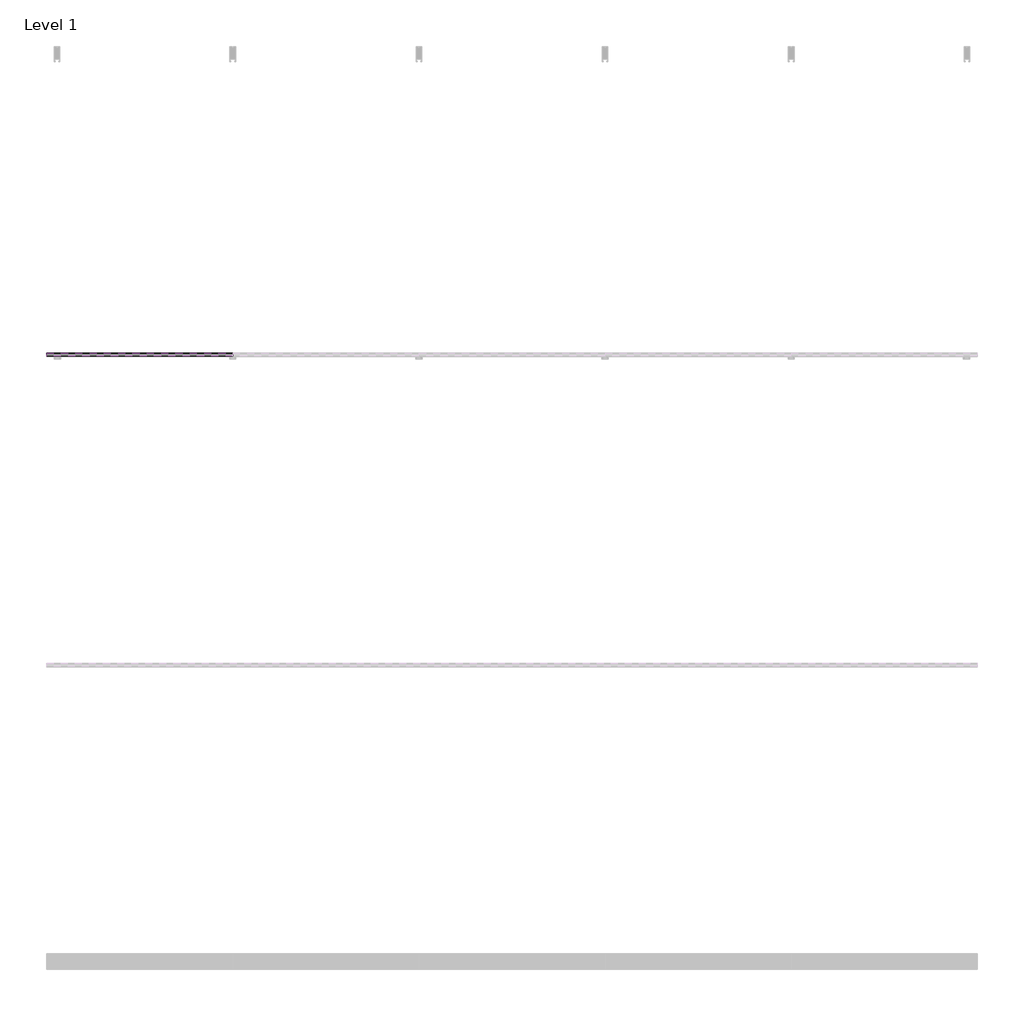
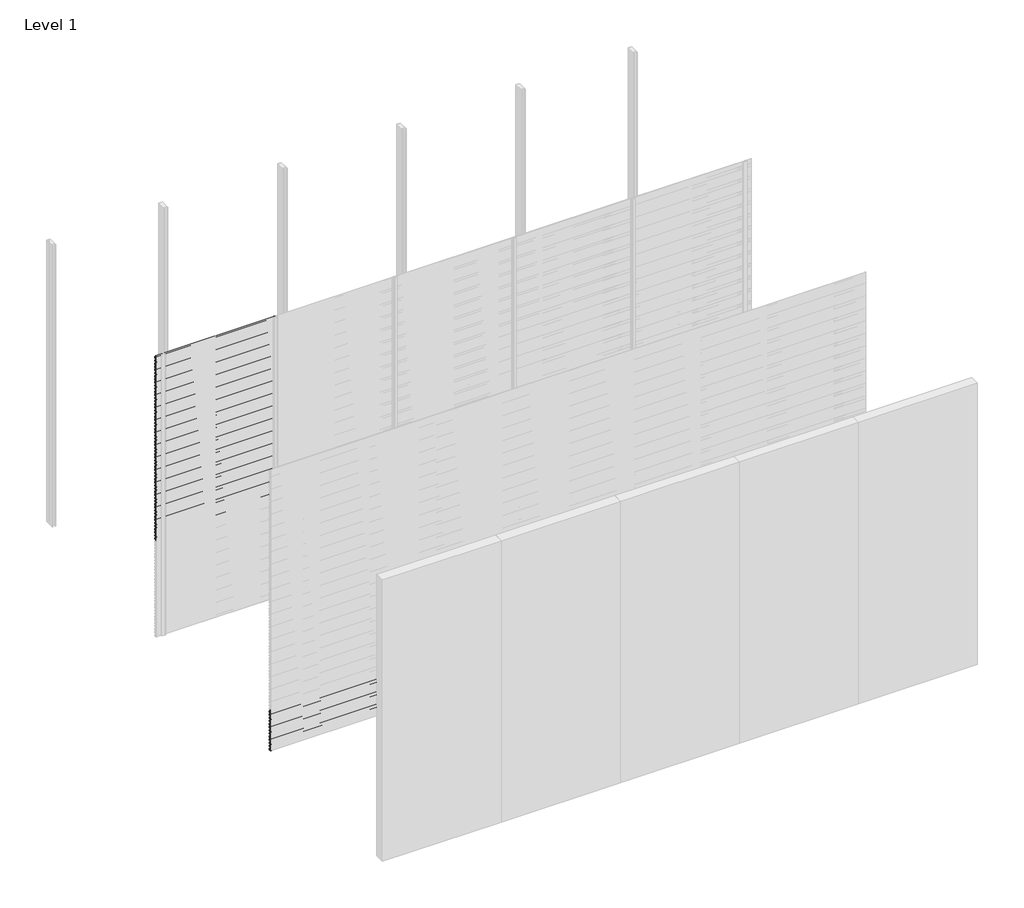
# One storey, part 42 of 77: 72 proxies.
"""IFC4 building model written with IfcOpenShell, lengths in millimetres."""

from ifc_helpers import new_model, si_unit, frame, origin, place, context, project, spatial, polyline, outline, extrude, element, save

model = new_model("IFC4")

# Units and contexts
model_context = context("Model", 3, world=origin())
ifc_project = project(units=[si_unit("LENGTHUNIT", "METRE", prefix="MILLI")], contexts=[model_context])

# Site, building, storey
site = spatial("IfcSite", under=ifc_project)
building = spatial("IfcBuilding", under=site)
storey = spatial("IfcBuildingStorey", under=building, Name="Level 1", Elevation=0.0)

# Proxies
placement = place(None, origin())
element("IfcBuildingElementProxy", 1, Name="Wall Sweeps", at=placement, inside=storey, context=model_context, shape_type="SweptSolid", body=[
    extrude(outline(polyline([(-23978.6, 2972.5359887), (-23998.0, 2983.7366691), (-23998.0, 2997.0), (-23997.0, 2997.0), (-23997.0, 2984.3191057), (-23977.6, 2973.1185105), (-23977.6, 2959.5185105), (-23978.6, 2961.0953129), (-23978.6, 2966.9032062), (-23995.9773817, 2958.8), (-23996.4, 2959.7063078), (-23978.6, 2968.0065841), (-23978.6, 2972.5359887)])), frame((0.0, 0.0, 0.0), z_axis=(1.0, 0.0, 0.0), x_axis=(0.0, 1.0, 0.0)), (0.0, 0.0, 1.0), 1200.0),
])
element("IfcBuildingElementProxy", 2, Name="Wall Sweeps", at=placement, inside=storey, context=model_context, shape_type="SweptSolid", body=[
    extrude(outline(polyline([(-23978.6, 2939.2359887), (-23998.0, 2950.4366691), (-23998.0, 2963.7), (-23997.0, 2963.7), (-23997.0, 2951.0191057), (-23977.6, 2939.8185105), (-23977.6, 2926.2185105), (-23978.6, 2927.7953129), (-23978.6, 2933.6032062), (-23995.9773817, 2925.5), (-23996.4, 2926.4063078), (-23978.6, 2934.7065841), (-23978.6, 2939.2359887)])), frame((0.0, 0.0, 0.0), z_axis=(1.0, 0.0, 0.0), x_axis=(0.0, 1.0, 0.0)), (0.0, 0.0, 1.0), 1200.0),
])
element("IfcBuildingElementProxy", 3, Name="Wall Sweeps", at=placement, inside=storey, context=model_context, shape_type="SweptSolid", body=[
    extrude(outline(polyline([(-23978.6, 2905.9359887), (-23998.0, 2917.1366691), (-23998.0, 2930.4), (-23997.0, 2930.4), (-23997.0, 2917.7191057), (-23977.6, 2906.5185105), (-23977.6, 2892.9185105), (-23978.6, 2894.4953129), (-23978.6, 2900.3032062), (-23995.9773817, 2892.2), (-23996.4, 2893.1063078), (-23978.6, 2901.4065841), (-23978.6, 2905.9359887)])), frame((0.0, 0.0, 0.0), z_axis=(1.0, 0.0, 0.0), x_axis=(0.0, 1.0, 0.0)), (0.0, 0.0, 1.0), 1200.0),
])
element("IfcBuildingElementProxy", 4, Name="Wall Sweeps", at=placement, inside=storey, context=model_context, shape_type="SweptSolid", body=[
    extrude(outline(polyline([(-23978.6, 2872.6359887), (-23998.0, 2883.8366691), (-23998.0, 2897.1), (-23997.0, 2897.1), (-23997.0, 2884.4191057), (-23977.6, 2873.2185105), (-23977.6, 2859.6185105), (-23978.6, 2861.1953129), (-23978.6, 2867.0032062), (-23995.9773817, 2858.9), (-23996.4, 2859.8063078), (-23978.6, 2868.1065841), (-23978.6, 2872.6359887)])), frame((0.0, 0.0, 0.0), z_axis=(1.0, 0.0, 0.0), x_axis=(0.0, 1.0, 0.0)), (0.0, 0.0, 1.0), 1200.0),
])
element("IfcBuildingElementProxy", 5, Name="Wall Sweeps", at=placement, inside=storey, context=model_context, shape_type="SweptSolid", body=[
    extrude(outline(polyline([(-23978.6, 2839.3359887), (-23998.0, 2850.5366691), (-23998.0, 2863.8), (-23997.0, 2863.8), (-23997.0, 2851.1191057), (-23977.6, 2839.9185105), (-23977.6, 2826.3185105), (-23978.6, 2827.8953129), (-23978.6, 2833.7032062), (-23995.9773817, 2825.6), (-23996.4, 2826.5063078), (-23978.6, 2834.8065841), (-23978.6, 2839.3359887)])), frame((0.0, 0.0, 0.0), z_axis=(1.0, 0.0, 0.0), x_axis=(0.0, 1.0, 0.0)), (0.0, 0.0, 1.0), 1200.0),
])
element("IfcBuildingElementProxy", 6, Name="Wall Sweeps", at=placement, inside=storey, context=model_context, shape_type="SweptSolid", body=[
    extrude(outline(polyline([(-23978.6, 2806.0359887), (-23998.0, 2817.2366691), (-23998.0, 2830.5), (-23997.0, 2830.5), (-23997.0, 2817.8191057), (-23977.6, 2806.6185105), (-23977.6, 2793.0185105), (-23978.6, 2794.5953129), (-23978.6, 2800.4032062), (-23995.9773817, 2792.3), (-23996.4, 2793.2063078), (-23978.6, 2801.5065841), (-23978.6, 2806.0359887)])), frame((0.0, 0.0, 0.0), z_axis=(1.0, 0.0, 0.0), x_axis=(0.0, 1.0, 0.0)), (0.0, 0.0, 1.0), 1200.0),
])
element("IfcBuildingElementProxy", 7, Name="Wall Sweeps", at=placement, inside=storey, context=model_context, shape_type="SweptSolid", body=[
    extrude(outline(polyline([(-23978.6, 2772.7359887), (-23998.0, 2783.9366691), (-23998.0, 2797.2), (-23997.0, 2797.2), (-23997.0, 2784.5191057), (-23977.6, 2773.3185105), (-23977.6, 2759.7185105), (-23978.6, 2761.2953129), (-23978.6, 2767.1032062), (-23995.9773817, 2759.0), (-23996.4, 2759.9063078), (-23978.6, 2768.2065841), (-23978.6, 2772.7359887)])), frame((0.0, 0.0, 0.0), z_axis=(1.0, 0.0, 0.0), x_axis=(0.0, 1.0, 0.0)), (0.0, 0.0, 1.0), 1200.0),
])
element("IfcBuildingElementProxy", 8, Name="Wall Sweeps", at=placement, inside=storey, context=model_context, shape_type="SweptSolid", body=[
    extrude(outline(polyline([(-23978.6, 2739.4359887), (-23998.0, 2750.6366691), (-23998.0, 2763.9), (-23997.0, 2763.9), (-23997.0, 2751.2191057), (-23977.6, 2740.0185105), (-23977.6, 2726.4185105), (-23978.6, 2727.9953129), (-23978.6, 2733.8032062), (-23995.9773817, 2725.7), (-23996.4, 2726.6063078), (-23978.6, 2734.9065841), (-23978.6, 2739.4359887)])), frame((0.0, 0.0, 0.0), z_axis=(1.0, 0.0, 0.0), x_axis=(0.0, 1.0, 0.0)), (0.0, 0.0, 1.0), 1200.0),
])
element("IfcBuildingElementProxy", 9, Name="Wall Sweeps", at=placement, inside=storey, context=model_context, shape_type="SweptSolid", body=[
    extrude(outline(polyline([(-23978.6, 2706.1359887), (-23998.0, 2717.3366691), (-23998.0, 2730.6), (-23997.0, 2730.6), (-23997.0, 2717.9191057), (-23977.6, 2706.7185105), (-23977.6, 2693.1185105), (-23978.6, 2694.6953129), (-23978.6, 2700.5032062), (-23995.9773817, 2692.4), (-23996.4, 2693.3063078), (-23978.6, 2701.6065841), (-23978.6, 2706.1359887)])), frame((0.0, 0.0, 0.0), z_axis=(1.0, 0.0, 0.0), x_axis=(0.0, 1.0, 0.0)), (0.0, 0.0, 1.0), 1200.0),
])
element("IfcBuildingElementProxy", 10, Name="Wall Sweeps", at=placement, inside=storey, context=model_context, shape_type="SweptSolid", body=[
    extrude(outline(polyline([(-23978.6, 2672.8359887), (-23998.0, 2684.0366691), (-23998.0, 2697.3), (-23997.0, 2697.3), (-23997.0, 2684.6191057), (-23977.6, 2673.4185105), (-23977.6, 2659.8185105), (-23978.6, 2661.3953129), (-23978.6, 2667.2032062), (-23995.9773817, 2659.1), (-23996.4, 2660.0063078), (-23978.6, 2668.3065841), (-23978.6, 2672.8359887)])), frame((0.0, 0.0, 0.0), z_axis=(1.0, 0.0, 0.0), x_axis=(0.0, 1.0, 0.0)), (0.0, 0.0, 1.0), 1200.0),
])
element("IfcBuildingElementProxy", 11, Name="Wall Sweeps", at=placement, inside=storey, context=model_context, shape_type="SweptSolid", body=[
    extrude(outline(polyline([(-23978.6, 2639.5359887), (-23998.0, 2650.7366691), (-23998.0, 2664.0), (-23997.0, 2664.0), (-23997.0, 2651.3191057), (-23977.6, 2640.1185105), (-23977.6, 2626.5185105), (-23978.6, 2628.0953129), (-23978.6, 2633.9032062), (-23995.9773817, 2625.8), (-23996.4, 2626.7063078), (-23978.6, 2635.0065841), (-23978.6, 2639.5359887)])), frame((0.0, 0.0, 0.0), z_axis=(1.0, 0.0, 0.0), x_axis=(0.0, 1.0, 0.0)), (0.0, 0.0, 1.0), 1200.0),
])
element("IfcBuildingElementProxy", 12, Name="Wall Sweeps", at=placement, inside=storey, context=model_context, shape_type="SweptSolid", body=[
    extrude(outline(polyline([(-23978.6, 2606.2359887), (-23998.0, 2617.4366691), (-23998.0, 2630.7), (-23997.0, 2630.7), (-23997.0, 2618.0191057), (-23977.6, 2606.8185105), (-23977.6, 2593.2185105), (-23978.6, 2594.7953129), (-23978.6, 2600.6032062), (-23995.9773817, 2592.5), (-23996.4, 2593.4063078), (-23978.6, 2601.7065841), (-23978.6, 2606.2359887)])), frame((0.0, 0.0, 0.0), z_axis=(1.0, 0.0, 0.0), x_axis=(0.0, 1.0, 0.0)), (0.0, 0.0, 1.0), 1200.0),
])
element("IfcBuildingElementProxy", 13, Name="Wall Sweeps", at=placement, inside=storey, context=model_context, shape_type="SweptSolid", body=[
    extrude(outline(polyline([(-23978.6, 2572.9359887), (-23998.0, 2584.1366691), (-23998.0, 2597.4), (-23997.0, 2597.4), (-23997.0, 2584.7191057), (-23977.6, 2573.5185105), (-23977.6, 2559.9185105), (-23978.6, 2561.4953129), (-23978.6, 2567.3032062), (-23995.9773817, 2559.2), (-23996.4, 2560.1063078), (-23978.6, 2568.4065841), (-23978.6, 2572.9359887)])), frame((0.0, 0.0, 0.0), z_axis=(1.0, 0.0, 0.0), x_axis=(0.0, 1.0, 0.0)), (0.0, 0.0, 1.0), 1200.0),
])
element("IfcBuildingElementProxy", 14, Name="Wall Sweeps", at=placement, inside=storey, context=model_context, shape_type="SweptSolid", body=[
    extrude(outline(polyline([(-23978.6, 2539.6359887), (-23998.0, 2550.8366691), (-23998.0, 2564.1), (-23997.0, 2564.1), (-23997.0, 2551.4191057), (-23977.6, 2540.2185105), (-23977.6, 2526.6185105), (-23978.6, 2528.1953129), (-23978.6, 2534.0032062), (-23995.9773817, 2525.9), (-23996.4, 2526.8063078), (-23978.6, 2535.1065841), (-23978.6, 2539.6359887)])), frame((0.0, 0.0, 0.0), z_axis=(1.0, 0.0, 0.0), x_axis=(0.0, 1.0, 0.0)), (0.0, 0.0, 1.0), 1200.0),
])
element("IfcBuildingElementProxy", 15, Name="Wall Sweeps", at=placement, inside=storey, context=model_context, shape_type="SweptSolid", body=[
    extrude(outline(polyline([(-23978.6, 2506.3359887), (-23998.0, 2517.5366691), (-23998.0, 2530.8), (-23997.0, 2530.8), (-23997.0, 2518.1191057), (-23977.6, 2506.9185105), (-23977.6, 2493.3185105), (-23978.6, 2494.8953129), (-23978.6, 2500.7032062), (-23995.9773817, 2492.6), (-23996.4, 2493.5063078), (-23978.6, 2501.8065841), (-23978.6, 2506.3359887)])), frame((0.0, 0.0, 0.0), z_axis=(1.0, 0.0, 0.0), x_axis=(0.0, 1.0, 0.0)), (0.0, 0.0, 1.0), 1200.0),
])
element("IfcBuildingElementProxy", 16, Name="Wall Sweeps", at=placement, inside=storey, context=model_context, shape_type="SweptSolid", body=[
    extrude(outline(polyline([(-23978.6, 2473.0359887), (-23998.0, 2484.2366691), (-23998.0, 2497.5), (-23997.0, 2497.5), (-23997.0, 2484.8191057), (-23977.6, 2473.6185105), (-23977.6, 2460.0185105), (-23978.6, 2461.5953129), (-23978.6, 2467.4032062), (-23995.9773817, 2459.3), (-23996.4, 2460.2063078), (-23978.6, 2468.5065841), (-23978.6, 2473.0359887)])), frame((0.0, 0.0, 0.0), z_axis=(1.0, 0.0, 0.0), x_axis=(0.0, 1.0, 0.0)), (0.0, 0.0, 1.0), 1200.0),
])
element("IfcBuildingElementProxy", 17, Name="Wall Sweeps", at=placement, inside=storey, context=model_context, shape_type="SweptSolid", body=[
    extrude(outline(polyline([(-23978.6, 2439.7359887), (-23998.0, 2450.9366691), (-23998.0, 2464.2), (-23997.0, 2464.2), (-23997.0, 2451.5191057), (-23977.6, 2440.3185105), (-23977.6, 2426.7185105), (-23978.6, 2428.2953129), (-23978.6, 2434.1032062), (-23995.9773817, 2426.0), (-23996.4, 2426.9063078), (-23978.6, 2435.2065841), (-23978.6, 2439.7359887)])), frame((0.0, 0.0, 0.0), z_axis=(1.0, 0.0, 0.0), x_axis=(0.0, 1.0, 0.0)), (0.0, 0.0, 1.0), 1200.0),
])
element("IfcBuildingElementProxy", 18, Name="Wall Sweeps", at=placement, inside=storey, context=model_context, shape_type="SweptSolid", body=[
    extrude(outline(polyline([(-23978.6, 2406.4359887), (-23998.0, 2417.6366691), (-23998.0, 2430.9), (-23997.0, 2430.9), (-23997.0, 2418.2191057), (-23977.6, 2407.0185105), (-23977.6, 2393.4185105), (-23978.6, 2394.9953129), (-23978.6, 2400.8032062), (-23995.9773817, 2392.7), (-23996.4, 2393.6063078), (-23978.6, 2401.9065841), (-23978.6, 2406.4359887)])), frame((0.0, 0.0, 0.0), z_axis=(1.0, 0.0, 0.0), x_axis=(0.0, 1.0, 0.0)), (0.0, 0.0, 1.0), 1200.0),
])
element("IfcBuildingElementProxy", 19, Name="Wall Sweeps", at=placement, inside=storey, context=model_context, shape_type="SweptSolid", body=[
    extrude(outline(polyline([(-23978.6, 2373.1359887), (-23998.0, 2384.3366691), (-23998.0, 2397.6), (-23997.0, 2397.6), (-23997.0, 2384.9191057), (-23977.6, 2373.7185105), (-23977.6, 2360.1185105), (-23978.6, 2361.6953129), (-23978.6, 2367.5032062), (-23995.9773817, 2359.4), (-23996.4, 2360.3063078), (-23978.6, 2368.6065841), (-23978.6, 2373.1359887)])), frame((0.0, 0.0, 0.0), z_axis=(1.0, 0.0, 0.0), x_axis=(0.0, 1.0, 0.0)), (0.0, 0.0, 1.0), 1200.0),
])
element("IfcBuildingElementProxy", 20, Name="Wall Sweeps", at=placement, inside=storey, context=model_context, shape_type="SweptSolid", body=[
    extrude(outline(polyline([(-23978.6, 2339.8359887), (-23998.0, 2351.0366691), (-23998.0, 2364.3), (-23997.0, 2364.3), (-23997.0, 2351.6191057), (-23977.6, 2340.4185105), (-23977.6, 2326.8185105), (-23978.6, 2328.3953129), (-23978.6, 2334.2032062), (-23995.9773817, 2326.1), (-23996.4, 2327.0063078), (-23978.6, 2335.3065841), (-23978.6, 2339.8359887)])), frame((0.0, 0.0, 0.0), z_axis=(1.0, 0.0, 0.0), x_axis=(0.0, 1.0, 0.0)), (0.0, 0.0, 1.0), 1200.0),
])
element("IfcBuildingElementProxy", 21, Name="Wall Sweeps", at=placement, inside=storey, context=model_context, shape_type="SweptSolid", body=[
    extrude(outline(polyline([(-23978.6, 2306.5359887), (-23998.0, 2317.7366691), (-23998.0, 2331.0), (-23997.0, 2331.0), (-23997.0, 2318.3191057), (-23977.6, 2307.1185105), (-23977.6, 2293.5185105), (-23978.6, 2295.0953129), (-23978.6, 2300.9032062), (-23995.9773817, 2292.8), (-23996.4, 2293.7063078), (-23978.6, 2302.0065841), (-23978.6, 2306.5359887)])), frame((0.0, 0.0, 0.0), z_axis=(1.0, 0.0, 0.0), x_axis=(0.0, 1.0, 0.0)), (0.0, 0.0, 1.0), 1200.0),
])
element("IfcBuildingElementProxy", 22, Name="Wall Sweeps", at=placement, inside=storey, context=model_context, shape_type="SweptSolid", body=[
    extrude(outline(polyline([(-23978.6, 2273.2359887), (-23998.0, 2284.4366691), (-23998.0, 2297.7), (-23997.0, 2297.7), (-23997.0, 2285.0191057), (-23977.6, 2273.8185105), (-23977.6, 2260.2185105), (-23978.6, 2261.7953129), (-23978.6, 2267.6032062), (-23995.9773817, 2259.5), (-23996.4, 2260.4063078), (-23978.6, 2268.7065841), (-23978.6, 2273.2359887)])), frame((0.0, 0.0, 0.0), z_axis=(1.0, 0.0, 0.0), x_axis=(0.0, 1.0, 0.0)), (0.0, 0.0, 1.0), 1200.0),
])
element("IfcBuildingElementProxy", 23, Name="Wall Sweeps", at=placement, inside=storey, context=model_context, shape_type="SweptSolid", body=[
    extrude(outline(polyline([(-23978.6, 2239.9359887), (-23998.0, 2251.1366691), (-23998.0, 2264.4), (-23997.0, 2264.4), (-23997.0, 2251.7191057), (-23977.6, 2240.5185105), (-23977.6, 2226.9185105), (-23978.6, 2228.4953129), (-23978.6, 2234.3032062), (-23995.9773817, 2226.2), (-23996.4, 2227.1063078), (-23978.6, 2235.4065841), (-23978.6, 2239.9359887)])), frame((0.0, 0.0, 0.0), z_axis=(1.0, 0.0, 0.0), x_axis=(0.0, 1.0, 0.0)), (0.0, 0.0, 1.0), 1200.0),
])
element("IfcBuildingElementProxy", 24, Name="Wall Sweeps", at=placement, inside=storey, context=model_context, shape_type="SweptSolid", body=[
    extrude(outline(polyline([(-23978.6, 2206.6359887), (-23998.0, 2217.8366691), (-23998.0, 2231.1), (-23997.0, 2231.1), (-23997.0, 2218.4191057), (-23977.6, 2207.2185105), (-23977.6, 2193.6185105), (-23978.6, 2195.1953129), (-23978.6, 2201.0032062), (-23995.9773817, 2192.9), (-23996.4, 2193.8063078), (-23978.6, 2202.1065841), (-23978.6, 2206.6359887)])), frame((0.0, 0.0, 0.0), z_axis=(1.0, 0.0, 0.0), x_axis=(0.0, 1.0, 0.0)), (0.0, 0.0, 1.0), 1200.0),
])
element("IfcBuildingElementProxy", 25, Name="Wall Sweeps", at=placement, inside=storey, context=model_context, shape_type="SweptSolid", body=[
    extrude(outline(polyline([(-23978.6, 2173.3359887), (-23998.0, 2184.5366691), (-23998.0, 2197.8), (-23997.0, 2197.8), (-23997.0, 2185.1191057), (-23977.6, 2173.9185105), (-23977.6, 2160.3185105), (-23978.6, 2161.8953129), (-23978.6, 2167.7032062), (-23995.9773817, 2159.6), (-23996.4, 2160.5063078), (-23978.6, 2168.8065841), (-23978.6, 2173.3359887)])), frame((0.0, 0.0, 0.0), z_axis=(1.0, 0.0, 0.0), x_axis=(0.0, 1.0, 0.0)), (0.0, 0.0, 1.0), 1200.0),
])
element("IfcBuildingElementProxy", 26, Name="Wall Sweeps", at=placement, inside=storey, context=model_context, shape_type="SweptSolid", body=[
    extrude(outline(polyline([(-23978.6, 2140.0359887), (-23998.0, 2151.2366691), (-23998.0, 2164.5), (-23997.0, 2164.5), (-23997.0, 2151.8191057), (-23977.6, 2140.6185105), (-23977.6, 2127.0185105), (-23978.6, 2128.5953129), (-23978.6, 2134.4032062), (-23995.9773817, 2126.3), (-23996.4, 2127.2063078), (-23978.6, 2135.5065841), (-23978.6, 2140.0359887)])), frame((0.0, 0.0, 0.0), z_axis=(1.0, 0.0, 0.0), x_axis=(0.0, 1.0, 0.0)), (0.0, 0.0, 1.0), 1200.0),
])
element("IfcBuildingElementProxy", 27, Name="Wall Sweeps", at=placement, inside=storey, context=model_context, shape_type="SweptSolid", body=[
    extrude(outline(polyline([(-23978.6, 2106.7359887), (-23998.0, 2117.9366691), (-23998.0, 2131.2), (-23997.0, 2131.2), (-23997.0, 2118.5191057), (-23977.6, 2107.3185105), (-23977.6, 2093.7185105), (-23978.6, 2095.2953129), (-23978.6, 2101.1032062), (-23995.9773817, 2093.0), (-23996.4, 2093.9063078), (-23978.6, 2102.2065841), (-23978.6, 2106.7359887)])), frame((0.0, 0.0, 0.0), z_axis=(1.0, 0.0, 0.0), x_axis=(0.0, 1.0, 0.0)), (0.0, 0.0, 1.0), 1200.0),
])
element("IfcBuildingElementProxy", 28, Name="Wall Sweeps", at=placement, inside=storey, context=model_context, shape_type="SweptSolid", body=[
    extrude(outline(polyline([(-23978.6, 2073.4359887), (-23998.0, 2084.6366691), (-23998.0, 2097.9), (-23997.0, 2097.9), (-23997.0, 2085.2191057), (-23977.6, 2074.0185105), (-23977.6, 2060.4185105), (-23978.6, 2061.9953129), (-23978.6, 2067.8032062), (-23995.9773817, 2059.7), (-23996.4, 2060.6063078), (-23978.6, 2068.9065841), (-23978.6, 2073.4359887)])), frame((0.0, 0.0, 0.0), z_axis=(1.0, 0.0, 0.0), x_axis=(0.0, 1.0, 0.0)), (0.0, 0.0, 1.0), 1200.0),
])
element("IfcBuildingElementProxy", 29, Name="Wall Sweeps", at=placement, inside=storey, context=model_context, shape_type="SweptSolid", body=[
    extrude(outline(polyline([(-23978.6, 2040.1359887), (-23998.0, 2051.3366691), (-23998.0, 2064.6), (-23997.0, 2064.6), (-23997.0, 2051.9191057), (-23977.6, 2040.7185105), (-23977.6, 2027.1185105), (-23978.6, 2028.6953129), (-23978.6, 2034.5032062), (-23995.9773817, 2026.4), (-23996.4, 2027.3063078), (-23978.6, 2035.6065841), (-23978.6, 2040.1359887)])), frame((0.0, 0.0, 0.0), z_axis=(1.0, 0.0, 0.0), x_axis=(0.0, 1.0, 0.0)), (0.0, 0.0, 1.0), 1200.0),
])
element("IfcBuildingElementProxy", 30, Name="Wall Sweeps", at=placement, inside=storey, context=model_context, shape_type="SweptSolid", body=[
    extrude(outline(polyline([(-23978.6, 2006.8359887), (-23998.0, 2018.0366691), (-23998.0, 2031.3), (-23997.0, 2031.3), (-23997.0, 2018.6191057), (-23977.6, 2007.4185105), (-23977.6, 1993.8185105), (-23978.6, 1995.3953129), (-23978.6, 2001.2032062), (-23995.9773817, 1993.1), (-23996.4, 1994.0063078), (-23978.6, 2002.3065841), (-23978.6, 2006.8359887)])), frame((0.0, 0.0, 0.0), z_axis=(1.0, 0.0, 0.0), x_axis=(0.0, 1.0, 0.0)), (0.0, 0.0, 1.0), 1200.0),
])
element("IfcBuildingElementProxy", 31, Name="Wall Sweeps", at=placement, inside=storey, context=model_context, shape_type="SweptSolid", body=[
    extrude(outline(polyline([(-23978.6, 1973.5359887), (-23998.0, 1984.7366691), (-23998.0, 1998.0), (-23997.0, 1998.0), (-23997.0, 1985.3191057), (-23977.6, 1974.1185105), (-23977.6, 1960.5185105), (-23978.6, 1962.0953129), (-23978.6, 1967.9032062), (-23995.9773817, 1959.8), (-23996.4, 1960.7063078), (-23978.6, 1969.0065841), (-23978.6, 1973.5359887)])), frame((0.0, 0.0, 0.0), z_axis=(1.0, 0.0, 0.0), x_axis=(0.0, 1.0, 0.0)), (0.0, 0.0, 1.0), 1200.0),
])
element("IfcBuildingElementProxy", 32, Name="Wall Sweeps", at=placement, inside=storey, context=model_context, shape_type="SweptSolid", body=[
    extrude(outline(polyline([(-23978.6, 1940.2359887), (-23998.0, 1951.4366691), (-23998.0, 1964.7), (-23997.0, 1964.7), (-23997.0, 1952.0191057), (-23977.6, 1940.8185105), (-23977.6, 1927.2185105), (-23978.6, 1928.7953129), (-23978.6, 1934.6032062), (-23995.9773817, 1926.5), (-23996.4, 1927.4063078), (-23978.6, 1935.7065841), (-23978.6, 1940.2359887)])), frame((0.0, 0.0, 0.0), z_axis=(1.0, 0.0, 0.0), x_axis=(0.0, 1.0, 0.0)), (0.0, 0.0, 1.0), 1200.0),
])
element("IfcBuildingElementProxy", 33, Name="Wall Sweeps", at=placement, inside=storey, context=model_context, shape_type="SweptSolid", body=[
    extrude(outline(polyline([(-23978.6, 1906.9359887), (-23998.0, 1918.1366691), (-23998.0, 1931.4), (-23997.0, 1931.4), (-23997.0, 1918.7191057), (-23977.6, 1907.5185105), (-23977.6, 1893.9185105), (-23978.6, 1895.4953129), (-23978.6, 1901.3032062), (-23995.9773817, 1893.2), (-23996.4, 1894.1063078), (-23978.6, 1902.4065841), (-23978.6, 1906.9359887)])), frame((0.0, 0.0, 0.0), z_axis=(1.0, 0.0, 0.0), x_axis=(0.0, 1.0, 0.0)), (0.0, 0.0, 1.0), 1200.0),
])
element("IfcBuildingElementProxy", 34, Name="Wall Sweeps", at=placement, inside=storey, context=model_context, shape_type="SweptSolid", body=[
    extrude(outline(polyline([(-23978.6, 1873.6359887), (-23998.0, 1884.8366691), (-23998.0, 1898.1), (-23997.0, 1898.1), (-23997.0, 1885.4191057), (-23977.6, 1874.2185105), (-23977.6, 1860.6185105), (-23978.6, 1862.1953129), (-23978.6, 1868.0032062), (-23995.9773817, 1859.9), (-23996.4, 1860.8063078), (-23978.6, 1869.1065841), (-23978.6, 1873.6359887)])), frame((0.0, 0.0, 0.0), z_axis=(1.0, 0.0, 0.0), x_axis=(0.0, 1.0, 0.0)), (0.0, 0.0, 1.0), 1200.0),
])
element("IfcBuildingElementProxy", 35, Name="Wall Sweeps", at=placement, inside=storey, context=model_context, shape_type="SweptSolid", body=[
    extrude(outline(polyline([(-23978.6, 1840.3359887), (-23998.0, 1851.5366691), (-23998.0, 1864.8), (-23997.0, 1864.8), (-23997.0, 1852.1191057), (-23977.6, 1840.9185105), (-23977.6, 1827.3185105), (-23978.6, 1828.8953129), (-23978.6, 1834.7032062), (-23995.9773817, 1826.6), (-23996.4, 1827.5063078), (-23978.6, 1835.8065841), (-23978.6, 1840.3359887)])), frame((0.0, 0.0, 0.0), z_axis=(1.0, 0.0, 0.0), x_axis=(0.0, 1.0, 0.0)), (0.0, 0.0, 1.0), 1200.0),
])
element("IfcBuildingElementProxy", 36, Name="Wall Sweeps", at=placement, inside=storey, context=model_context, shape_type="SweptSolid", body=[
    extrude(outline(polyline([(-23978.6, 1807.0359887), (-23998.0, 1818.2366691), (-23998.0, 1831.5), (-23997.0, 1831.5), (-23997.0, 1818.8191057), (-23977.6, 1807.6185105), (-23977.6, 1794.0185105), (-23978.6, 1795.5953129), (-23978.6, 1801.4032062), (-23995.9773817, 1793.3), (-23996.4, 1794.2063078), (-23978.6, 1802.5065841), (-23978.6, 1807.0359887)])), frame((0.0, 0.0, 0.0), z_axis=(1.0, 0.0, 0.0), x_axis=(0.0, 1.0, 0.0)), (0.0, 0.0, 1.0), 1200.0),
])
element("IfcBuildingElementProxy", 37, Name="Wall Sweeps", at=placement, inside=storey, context=model_context, shape_type="SweptSolid", body=[
    extrude(outline(polyline([(-23978.6, 1773.7359887), (-23998.0, 1784.9366691), (-23998.0, 1798.2), (-23997.0, 1798.2), (-23997.0, 1785.5191057), (-23977.6, 1774.3185105), (-23977.6, 1760.7185105), (-23978.6, 1762.2953129), (-23978.6, 1768.1032062), (-23995.9773817, 1760.0), (-23996.4, 1760.9063078), (-23978.6, 1769.2065841), (-23978.6, 1773.7359887)])), frame((0.0, 0.0, 0.0), z_axis=(1.0, 0.0, 0.0), x_axis=(0.0, 1.0, 0.0)), (0.0, 0.0, 1.0), 1200.0),
])
element("IfcBuildingElementProxy", 38, Name="Wall Sweeps", at=placement, inside=storey, context=model_context, shape_type="SweptSolid", body=[
    extrude(outline(polyline([(-23978.6, 1740.4359887), (-23998.0, 1751.6366691), (-23998.0, 1764.9), (-23997.0, 1764.9), (-23997.0, 1752.2191057), (-23977.6, 1741.0185105), (-23977.6, 1727.4185105), (-23978.6, 1728.9953129), (-23978.6, 1734.8032062), (-23995.9773817, 1726.7), (-23996.4, 1727.6063078), (-23978.6, 1735.9065841), (-23978.6, 1740.4359887)])), frame((0.0, 0.0, 0.0), z_axis=(1.0, 0.0, 0.0), x_axis=(0.0, 1.0, 0.0)), (0.0, 0.0, 1.0), 1200.0),
])
element("IfcBuildingElementProxy", 39, Name="Wall Sweeps", at=placement, inside=storey, context=model_context, shape_type="SweptSolid", body=[
    extrude(outline(polyline([(-23978.6, 1707.1359887), (-23998.0, 1718.3366691), (-23998.0, 1731.6), (-23997.0, 1731.6), (-23997.0, 1718.9191057), (-23977.6, 1707.7185105), (-23977.6, 1694.1185105), (-23978.6, 1695.6953129), (-23978.6, 1701.5032062), (-23995.9773817, 1693.4), (-23996.4, 1694.3063078), (-23978.6, 1702.6065841), (-23978.6, 1707.1359887)])), frame((0.0, 0.0, 0.0), z_axis=(1.0, 0.0, 0.0), x_axis=(0.0, 1.0, 0.0)), (0.0, 0.0, 1.0), 1200.0),
])
element("IfcBuildingElementProxy", 40, Name="Wall Sweeps", at=placement, inside=storey, context=model_context, shape_type="SweptSolid", body=[
    extrude(outline(polyline([(-23978.6, 1673.8359887), (-23998.0, 1685.0366691), (-23998.0, 1698.3), (-23997.0, 1698.3), (-23997.0, 1685.6191057), (-23977.6, 1674.4185105), (-23977.6, 1660.8185105), (-23978.6, 1662.3953129), (-23978.6, 1668.2032062), (-23995.9773817, 1660.1), (-23996.4, 1661.0063078), (-23978.6, 1669.3065841), (-23978.6, 1673.8359887)])), frame((0.0, 0.0, 0.0), z_axis=(1.0, 0.0, 0.0), x_axis=(0.0, 1.0, 0.0)), (0.0, 0.0, 1.0), 1200.0),
])
element("IfcBuildingElementProxy", 41, Name="Wall Sweeps", at=placement, inside=storey, context=model_context, shape_type="SweptSolid", body=[
    extrude(outline(polyline([(-23978.6, 1640.5359887), (-23998.0, 1651.7366691), (-23998.0, 1665.0), (-23997.0, 1665.0), (-23997.0, 1652.3191057), (-23977.6, 1641.1185105), (-23977.6, 1627.5185105), (-23978.6, 1629.0953129), (-23978.6, 1634.9032062), (-23995.9773817, 1626.8), (-23996.4, 1627.7063078), (-23978.6, 1636.0065841), (-23978.6, 1640.5359887)])), frame((0.0, 0.0, 0.0), z_axis=(1.0, 0.0, 0.0), x_axis=(0.0, 1.0, 0.0)), (0.0, 0.0, 1.0), 1200.0),
])
element("IfcBuildingElementProxy", 42, Name="Wall Sweeps", at=placement, inside=storey, context=model_context, shape_type="SweptSolid", body=[
    extrude(outline(polyline([(-23978.6, 1607.2359887), (-23998.0, 1618.4366691), (-23998.0, 1631.7), (-23997.0, 1631.7), (-23997.0, 1619.0191057), (-23977.6, 1607.8185105), (-23977.6, 1594.2185105), (-23978.6, 1595.7953129), (-23978.6, 1601.6032062), (-23995.9773817, 1593.5), (-23996.4, 1594.4063078), (-23978.6, 1602.7065841), (-23978.6, 1607.2359887)])), frame((0.0, 0.0, 0.0), z_axis=(1.0, 0.0, 0.0), x_axis=(0.0, 1.0, 0.0)), (0.0, 0.0, 1.0), 1200.0),
])
element("IfcBuildingElementProxy", 43, Name="Wall Sweeps", at=placement, inside=storey, context=model_context, shape_type="SweptSolid", body=[
    extrude(outline(polyline([(-23978.6, 1573.9359887), (-23998.0, 1585.1366691), (-23998.0, 1598.4), (-23997.0, 1598.4), (-23997.0, 1585.7191057), (-23977.6, 1574.5185105), (-23977.6, 1560.9185105), (-23978.6, 1562.4953129), (-23978.6, 1568.3032062), (-23995.9773817, 1560.2), (-23996.4, 1561.1063078), (-23978.6, 1569.4065841), (-23978.6, 1573.9359887)])), frame((0.0, 0.0, 0.0), z_axis=(1.0, 0.0, 0.0), x_axis=(0.0, 1.0, 0.0)), (0.0, 0.0, 1.0), 1200.0),
])
element("IfcBuildingElementProxy", 44, Name="Wall Sweeps", at=placement, inside=storey, context=model_context, shape_type="SweptSolid", body=[
    extrude(outline(polyline([(-23978.6, 1540.6359887), (-23998.0, 1551.8366691), (-23998.0, 1565.1), (-23997.0, 1565.1), (-23997.0, 1552.4191057), (-23977.6, 1541.2185105), (-23977.6, 1527.6185105), (-23978.6, 1529.1953129), (-23978.6, 1535.0032062), (-23995.9773817, 1526.9), (-23996.4, 1527.8063078), (-23978.6, 1536.1065841), (-23978.6, 1540.6359887)])), frame((0.0, 0.0, 0.0), z_axis=(1.0, 0.0, 0.0), x_axis=(0.0, 1.0, 0.0)), (0.0, 0.0, 1.0), 1200.0),
])
element("IfcBuildingElementProxy", 45, Name="Wall Sweeps", at=placement, inside=storey, context=model_context, shape_type="SweptSolid", body=[
    extrude(outline(polyline([(-23978.6, 1507.3359887), (-23998.0, 1518.5366691), (-23998.0, 1531.8), (-23997.0, 1531.8), (-23997.0, 1519.1191057), (-23977.6, 1507.9185105), (-23977.6, 1494.3185105), (-23978.6, 1495.8953129), (-23978.6, 1501.7032062), (-23995.9773817, 1493.6), (-23996.4, 1494.5063078), (-23978.6, 1502.8065841), (-23978.6, 1507.3359887)])), frame((0.0, 0.0, 0.0), z_axis=(1.0, 0.0, 0.0), x_axis=(0.0, 1.0, 0.0)), (0.0, 0.0, 1.0), 1200.0),
])
element("IfcBuildingElementProxy", 46, Name="Wall Sweeps", at=placement, inside=storey, context=model_context, shape_type="SweptSolid", body=[
    extrude(outline(polyline([(-23978.6, 1474.0359887), (-23998.0, 1485.2366691), (-23998.0, 1498.5), (-23997.0, 1498.5), (-23997.0, 1485.8191057), (-23977.6, 1474.6185105), (-23977.6, 1461.0185105), (-23978.6, 1462.5953129), (-23978.6, 1468.4032062), (-23995.9773817, 1460.3), (-23996.4, 1461.2063078), (-23978.6, 1469.5065841), (-23978.6, 1474.0359887)])), frame((0.0, 0.0, 0.0), z_axis=(1.0, 0.0, 0.0), x_axis=(0.0, 1.0, 0.0)), (0.0, 0.0, 1.0), 1200.0),
])
element("IfcBuildingElementProxy", 47, Name="Wall Sweeps", at=placement, inside=storey, context=model_context, shape_type="SweptSolid", body=[
    extrude(outline(polyline([(-23978.6, 1440.7359887), (-23998.0, 1451.9366691), (-23998.0, 1465.2), (-23997.0, 1465.2), (-23997.0, 1452.5191057), (-23977.6, 1441.3185105), (-23977.6, 1427.7185105), (-23978.6, 1429.2953129), (-23978.6, 1435.1032062), (-23995.9773817, 1427.0), (-23996.4, 1427.9063078), (-23978.6, 1436.2065841), (-23978.6, 1440.7359887)])), frame((0.0, 0.0, 0.0), z_axis=(1.0, 0.0, 0.0), x_axis=(0.0, 1.0, 0.0)), (0.0, 0.0, 1.0), 1200.0),
])
element("IfcBuildingElementProxy", 48, Name="Wall Sweeps", at=placement, inside=storey, context=model_context, shape_type="SweptSolid", body=[
    extrude(outline(polyline([(-23978.6, 1407.4359887), (-23998.0, 1418.6366691), (-23998.0, 1431.9), (-23997.0, 1431.9), (-23997.0, 1419.2191057), (-23977.6, 1408.0185105), (-23977.6, 1394.4185105), (-23978.6, 1395.9953129), (-23978.6, 1401.8032062), (-23995.9773817, 1393.7), (-23996.4, 1394.6063078), (-23978.6, 1402.9065841), (-23978.6, 1407.4359887)])), frame((0.0, 0.0, 0.0), z_axis=(1.0, 0.0, 0.0), x_axis=(0.0, 1.0, 0.0)), (0.0, 0.0, 1.0), 1200.0),
])
element("IfcBuildingElementProxy", 49, Name="Wall Sweeps", at=placement, inside=storey, context=model_context, shape_type="SweptSolid", body=[
    extrude(outline(polyline([(-23978.6, 1374.1359887), (-23998.0, 1385.3366691), (-23998.0, 1398.6), (-23997.0, 1398.6), (-23997.0, 1385.9191057), (-23977.6, 1374.7185105), (-23977.6, 1361.1185105), (-23978.6, 1362.6953129), (-23978.6, 1368.5032062), (-23995.9773817, 1360.4), (-23996.4, 1361.3063078), (-23978.6, 1369.6065841), (-23978.6, 1374.1359887)])), frame((0.0, 0.0, 0.0), z_axis=(1.0, 0.0, 0.0), x_axis=(0.0, 1.0, 0.0)), (0.0, 0.0, 1.0), 1200.0),
])
element("IfcBuildingElementProxy", 50, Name="Wall Sweeps", at=placement, inside=storey, context=model_context, shape_type="SweptSolid", body=[
    extrude(outline(polyline([(-23978.6, 1340.8359887), (-23998.0, 1352.0366691), (-23998.0, 1365.3), (-23997.0, 1365.3), (-23997.0, 1352.6191057), (-23977.6, 1341.4185105), (-23977.6, 1327.8185105), (-23978.6, 1329.3953129), (-23978.6, 1335.2032062), (-23995.9773817, 1327.1), (-23996.4, 1328.0063078), (-23978.6, 1336.3065841), (-23978.6, 1340.8359887)])), frame((0.0, 0.0, 0.0), z_axis=(1.0, 0.0, 0.0), x_axis=(0.0, 1.0, 0.0)), (0.0, 0.0, 1.0), 1200.0),
])
element("IfcBuildingElementProxy", 51, Name="Wall Sweeps", at=placement, inside=storey, context=model_context, shape_type="SweptSolid", body=[
    extrude(outline(polyline([(-23978.6, 1307.5359887), (-23998.0, 1318.7366691), (-23998.0, 1332.0), (-23997.0, 1332.0), (-23997.0, 1319.3191057), (-23977.6, 1308.1185105), (-23977.6, 1294.5185105), (-23978.6, 1296.0953129), (-23978.6, 1301.9032062), (-23995.9773817, 1293.8), (-23996.4, 1294.7063078), (-23978.6, 1303.0065841), (-23978.6, 1307.5359887)])), frame((0.0, 0.0, 0.0), z_axis=(1.0, 0.0, 0.0), x_axis=(0.0, 1.0, 0.0)), (0.0, 0.0, 1.0), 1200.0),
])
element("IfcBuildingElementProxy", 52, Name="Wall Sweeps", at=placement, inside=storey, context=model_context, shape_type="SweptSolid", body=[
    extrude(outline(polyline([(-23978.6, 1274.2359887), (-23998.0, 1285.4366691), (-23998.0, 1298.7), (-23997.0, 1298.7), (-23997.0, 1286.0191057), (-23977.6, 1274.8185105), (-23977.6, 1261.2185105), (-23978.6, 1262.7953129), (-23978.6, 1268.6032062), (-23995.9773817, 1260.5), (-23996.4, 1261.4063078), (-23978.6, 1269.7065841), (-23978.6, 1274.2359887)])), frame((0.0, 0.0, 0.0), z_axis=(1.0, 0.0, 0.0), x_axis=(0.0, 1.0, 0.0)), (0.0, 0.0, 1.0), 1200.0),
])
element("IfcBuildingElementProxy", 53, Name="Wall Sweeps", at=placement, inside=storey, context=model_context, shape_type="SweptSolid", body=[
    extrude(outline(polyline([(-23978.6, 1240.9359887), (-23998.0, 1252.1366691), (-23998.0, 1265.4), (-23997.0, 1265.4), (-23997.0, 1252.7191057), (-23977.6, 1241.5185105), (-23977.6, 1227.9185105), (-23978.6, 1229.4953129), (-23978.6, 1235.3032062), (-23995.9773817, 1227.2), (-23996.4, 1228.1063078), (-23978.6, 1236.4065841), (-23978.6, 1240.9359887)])), frame((0.0, 0.0, 0.0), z_axis=(1.0, 0.0, 0.0), x_axis=(0.0, 1.0, 0.0)), (0.0, 0.0, 1.0), 1200.0),
])
element("IfcBuildingElementProxy", 54, Name="Wall Sweeps", at=placement, inside=storey, context=model_context, shape_type="SweptSolid", body=[
    extrude(outline(polyline([(-23978.6, 1207.6359887), (-23998.0, 1218.8366691), (-23998.0, 1232.1), (-23997.0, 1232.1), (-23997.0, 1219.4191057), (-23977.6, 1208.2185105), (-23977.6, 1194.6185105), (-23978.6, 1196.1953129), (-23978.6, 1202.0032062), (-23995.9773817, 1193.9), (-23996.4, 1194.8063078), (-23978.6, 1203.1065841), (-23978.6, 1207.6359887)])), frame((0.0, 0.0, 0.0), z_axis=(1.0, 0.0, 0.0), x_axis=(0.0, 1.0, 0.0)), (0.0, 0.0, 1.0), 1200.0),
])
element("IfcBuildingElementProxy", 55, Name="Wall Sweeps", at=placement, inside=storey, context=model_context, shape_type="SweptSolid", body=[
    extrude(outline(polyline([(-23978.6, 1174.3359887), (-23998.0, 1185.5366691), (-23998.0, 1198.8), (-23997.0, 1198.8), (-23997.0, 1186.1191057), (-23977.6, 1174.9185105), (-23977.6, 1161.3185105), (-23978.6, 1162.8953129), (-23978.6, 1168.7032062), (-23995.9773817, 1160.6), (-23996.4, 1161.5063078), (-23978.6, 1169.8065841), (-23978.6, 1174.3359887)])), frame((0.0, 0.0, 0.0), z_axis=(1.0, 0.0, 0.0), x_axis=(0.0, 1.0, 0.0)), (0.0, 0.0, 1.0), 1200.0),
])
element("IfcBuildingElementProxy", 56, Name="Wall Sweeps", at=placement, inside=storey, context=model_context, shape_type="SweptSolid", body=[
    extrude(outline(polyline([(-23978.6, 1141.0359887), (-23998.0, 1152.2366691), (-23998.0, 1165.5), (-23997.0, 1165.5), (-23997.0, 1152.8191057), (-23977.6, 1141.6185105), (-23977.6, 1128.0185105), (-23978.6, 1129.5953129), (-23978.6, 1135.4032062), (-23995.9773817, 1127.3), (-23996.4, 1128.2063078), (-23978.6, 1136.5065841), (-23978.6, 1141.0359887)])), frame((0.0, 0.0, 0.0), z_axis=(1.0, 0.0, 0.0), x_axis=(0.0, 1.0, 0.0)), (0.0, 0.0, 1.0), 1200.0),
])
element("IfcBuildingElementProxy", 57, Name="Wall Sweeps", at=placement, inside=storey, context=model_context, shape_type="SweptSolid", body=[
    extrude(outline(polyline([(-23978.6, 1107.7359887), (-23998.0, 1118.9366691), (-23998.0, 1132.2), (-23997.0, 1132.2), (-23997.0, 1119.5191057), (-23977.6, 1108.3185105), (-23977.6, 1094.7185105), (-23978.6, 1096.2953129), (-23978.6, 1102.1032062), (-23995.9773817, 1094.0), (-23996.4, 1094.9063078), (-23978.6, 1103.2065841), (-23978.6, 1107.7359887)])), frame((0.0, 0.0, 0.0), z_axis=(1.0, 0.0, 0.0), x_axis=(0.0, 1.0, 0.0)), (0.0, 0.0, 1.0), 1200.0),
])
element("IfcBuildingElementProxy", 58, Name="Wall Sweeps", at=placement, inside=storey, context=model_context, shape_type="SweptSolid", body=[
    extrude(outline(polyline([(-23978.6, 1074.4359887), (-23998.0, 1085.6366691), (-23998.0, 1098.9), (-23997.0, 1098.9), (-23997.0, 1086.2191057), (-23977.6, 1075.0185105), (-23977.6, 1061.4185105), (-23978.6, 1062.9953129), (-23978.6, 1068.8032062), (-23995.9773817, 1060.7), (-23996.4, 1061.6063078), (-23978.6, 1069.9065841), (-23978.6, 1074.4359887)])), frame((0.0, 0.0, 0.0), z_axis=(1.0, 0.0, 0.0), x_axis=(0.0, 1.0, 0.0)), (0.0, 0.0, 1.0), 1200.0),
])
element("IfcBuildingElementProxy", 59, Name="Wall Sweeps", at=placement, inside=storey, context=model_context, shape_type="SweptSolid", body=[
    extrude(outline(polyline([(-23978.6, 1041.1359887), (-23998.0, 1052.3366691), (-23998.0, 1065.6), (-23997.0, 1065.6), (-23997.0, 1052.9191057), (-23977.6, 1041.7185105), (-23977.6, 1028.1185105), (-23978.6, 1029.6953129), (-23978.6, 1035.5032062), (-23995.9773817, 1027.4), (-23996.4, 1028.3063078), (-23978.6, 1036.6065841), (-23978.6, 1041.1359887)])), frame((0.0, 0.0, 0.0), z_axis=(1.0, 0.0, 0.0), x_axis=(0.0, 1.0, 0.0)), (0.0, 0.0, 1.0), 1200.0),
])
element("IfcBuildingElementProxy", 60, Name="Wall Sweeps", at=placement, inside=storey, context=model_context, shape_type="SweptSolid", body=[
    extrude(outline(polyline([(-25978.6, 408.4359887), (-25998.0, 419.6366691), (-25998.0, 432.9), (-25997.0, 432.9), (-25997.0, 420.2191057), (-25977.6, 409.0185105), (-25977.6, 395.4185105), (-25978.6, 396.9953129), (-25978.6, 402.8032062), (-25995.9773817, 394.7), (-25996.4, 395.6063078), (-25978.6, 403.9065841), (-25978.6, 408.4359887)])), frame((0.0, 0.0, 0.0), z_axis=(1.0, 0.0, 0.0), x_axis=(0.0, 1.0, 0.0)), (0.0, 0.0, 1.0), 6000.0),
])
element("IfcBuildingElementProxy", 61, Name="Wall Sweeps", at=placement, inside=storey, context=model_context, shape_type="SweptSolid", body=[
    extrude(outline(polyline([(-25978.6, 375.1359887), (-25998.0, 386.3366691), (-25998.0, 399.6), (-25997.0, 399.6), (-25997.0, 386.9191057), (-25977.6, 375.7185105), (-25977.6, 362.1185105), (-25978.6, 363.6953129), (-25978.6, 369.5032062), (-25995.9773817, 361.4), (-25996.4, 362.3063078), (-25978.6, 370.6065841), (-25978.6, 375.1359887)])), frame((0.0, 0.0, 0.0), z_axis=(1.0, 0.0, 0.0), x_axis=(0.0, 1.0, 0.0)), (0.0, 0.0, 1.0), 6000.0),
])
element("IfcBuildingElementProxy", 62, Name="Wall Sweeps", at=placement, inside=storey, context=model_context, shape_type="SweptSolid", body=[
    extrude(outline(polyline([(-25978.6, 341.8359887), (-25998.0, 353.0366691), (-25998.0, 366.3), (-25997.0, 366.3), (-25997.0, 353.6191057), (-25977.6, 342.4185105), (-25977.6, 328.8185105), (-25978.6, 330.3953129), (-25978.6, 336.2032062), (-25995.9773817, 328.1), (-25996.4, 329.0063078), (-25978.6, 337.3065841), (-25978.6, 341.8359887)])), frame((0.0, 0.0, 0.0), z_axis=(1.0, 0.0, 0.0), x_axis=(0.0, 1.0, 0.0)), (0.0, 0.0, 1.0), 6000.0),
])
element("IfcBuildingElementProxy", 63, Name="Wall Sweeps", at=placement, inside=storey, context=model_context, shape_type="SweptSolid", body=[
    extrude(outline(polyline([(-25978.6, 308.5359887), (-25998.0, 319.7366691), (-25998.0, 333.0), (-25997.0, 333.0), (-25997.0, 320.3191057), (-25977.6, 309.1185105), (-25977.6, 295.5185105), (-25978.6, 297.0953129), (-25978.6, 302.9032062), (-25995.9773817, 294.8), (-25996.4, 295.7063078), (-25978.6, 304.0065841), (-25978.6, 308.5359887)])), frame((0.0, 0.0, 0.0), z_axis=(1.0, 0.0, 0.0), x_axis=(0.0, 1.0, 0.0)), (0.0, 0.0, 1.0), 6000.0),
])
element("IfcBuildingElementProxy", 64, Name="Wall Sweeps", at=placement, inside=storey, context=model_context, shape_type="SweptSolid", body=[
    extrude(outline(polyline([(-25978.6, 275.2359887), (-25998.0, 286.4366691), (-25998.0, 299.7), (-25997.0, 299.7), (-25997.0, 287.0191057), (-25977.6, 275.8185105), (-25977.6, 262.2185105), (-25978.6, 263.7953129), (-25978.6, 269.6032062), (-25995.9773817, 261.5), (-25996.4, 262.4063078), (-25978.6, 270.7065841), (-25978.6, 275.2359887)])), frame((0.0, 0.0, 0.0), z_axis=(1.0, 0.0, 0.0), x_axis=(0.0, 1.0, 0.0)), (0.0, 0.0, 1.0), 6000.0),
])
element("IfcBuildingElementProxy", 65, Name="Wall Sweeps", at=placement, inside=storey, context=model_context, shape_type="SweptSolid", body=[
    extrude(outline(polyline([(-25978.6, 241.9359887), (-25998.0, 253.1366691), (-25998.0, 266.4), (-25997.0, 266.4), (-25997.0, 253.7191057), (-25977.6, 242.5185105), (-25977.6, 228.9185105), (-25978.6, 230.4953129), (-25978.6, 236.3032062), (-25995.9773817, 228.2), (-25996.4, 229.1063078), (-25978.6, 237.4065841), (-25978.6, 241.9359887)])), frame((0.0, 0.0, 0.0), z_axis=(1.0, 0.0, 0.0), x_axis=(0.0, 1.0, 0.0)), (0.0, 0.0, 1.0), 6000.0),
])
element("IfcBuildingElementProxy", 66, Name="Wall Sweeps", at=placement, inside=storey, context=model_context, shape_type="SweptSolid", body=[
    extrude(outline(polyline([(-25978.6, 208.6359887), (-25998.0, 219.8366691), (-25998.0, 233.1), (-25997.0, 233.1), (-25997.0, 220.4191057), (-25977.6, 209.2185105), (-25977.6, 195.6185105), (-25978.6, 197.1953129), (-25978.6, 203.0032062), (-25995.9773817, 194.9), (-25996.4, 195.8063078), (-25978.6, 204.1065841), (-25978.6, 208.6359887)])), frame((0.0, 0.0, 0.0), z_axis=(1.0, 0.0, 0.0), x_axis=(0.0, 1.0, 0.0)), (0.0, 0.0, 1.0), 6000.0),
])
element("IfcBuildingElementProxy", 67, Name="Wall Sweeps", at=placement, inside=storey, context=model_context, shape_type="SweptSolid", body=[
    extrude(outline(polyline([(-25978.6, 175.3359887), (-25998.0, 186.5366691), (-25998.0, 199.8), (-25997.0, 199.8), (-25997.0, 187.1191057), (-25977.6, 175.9185105), (-25977.6, 162.3185105), (-25978.6, 163.8953129), (-25978.6, 169.7032062), (-25995.9773817, 161.6), (-25996.4, 162.5063078), (-25978.6, 170.8065841), (-25978.6, 175.3359887)])), frame((0.0, 0.0, 0.0), z_axis=(1.0, 0.0, 0.0), x_axis=(0.0, 1.0, 0.0)), (0.0, 0.0, 1.0), 6000.0),
])
element("IfcBuildingElementProxy", 68, Name="Wall Sweeps", at=placement, inside=storey, context=model_context, shape_type="SweptSolid", body=[
    extrude(outline(polyline([(-25978.6, 142.0359887), (-25998.0, 153.2366691), (-25998.0, 166.5), (-25997.0, 166.5), (-25997.0, 153.8191057), (-25977.6, 142.6185105), (-25977.6, 129.0185105), (-25978.6, 130.5953129), (-25978.6, 136.4032062), (-25995.9773817, 128.3), (-25996.4, 129.2063078), (-25978.6, 137.5065841), (-25978.6, 142.0359887)])), frame((0.0, 0.0, 0.0), z_axis=(1.0, 0.0, 0.0), x_axis=(0.0, 1.0, 0.0)), (0.0, 0.0, 1.0), 6000.0),
])
element("IfcBuildingElementProxy", 69, Name="Wall Sweeps", at=placement, inside=storey, context=model_context, shape_type="SweptSolid", body=[
    extrude(outline(polyline([(-25978.6, 108.7359887), (-25998.0, 119.9366691), (-25998.0, 133.2), (-25997.0, 133.2), (-25997.0, 120.5191057), (-25977.6, 109.3185105), (-25977.6, 95.7185105), (-25978.6, 97.2953129), (-25978.6, 103.1032062), (-25995.9773817, 95.0), (-25996.4, 95.9063078), (-25978.6, 104.2065841), (-25978.6, 108.7359887)])), frame((0.0, 0.0, 0.0), z_axis=(1.0, 0.0, 0.0), x_axis=(0.0, 1.0, 0.0)), (0.0, 0.0, 1.0), 6000.0),
])
element("IfcBuildingElementProxy", 70, Name="Wall Sweeps", at=placement, inside=storey, context=model_context, shape_type="SweptSolid", body=[
    extrude(outline(polyline([(-25978.6, 75.4359887), (-25998.0, 86.6366691), (-25998.0, 99.9), (-25997.0, 99.9), (-25997.0, 87.2191057), (-25977.6, 76.0185105), (-25977.6, 62.4185105), (-25978.6, 63.9953129), (-25978.6, 69.8032062), (-25995.9773817, 61.7), (-25996.4, 62.6063078), (-25978.6, 70.9065841), (-25978.6, 75.4359887)])), frame((0.0, 0.0, 0.0), z_axis=(1.0, 0.0, 0.0), x_axis=(0.0, 1.0, 0.0)), (0.0, 0.0, 1.0), 6000.0),
])
element("IfcBuildingElementProxy", 71, Name="Wall Sweeps", at=placement, inside=storey, context=model_context, shape_type="SweptSolid", body=[
    extrude(outline(polyline([(-25978.6, 42.1359887), (-25998.0, 53.3366691), (-25998.0, 66.6), (-25997.0, 66.6), (-25997.0, 53.9191057), (-25977.6, 42.7185105), (-25977.6, 29.1185105), (-25978.6, 30.6953129), (-25978.6, 36.5032062), (-25995.9773817, 28.4), (-25996.4, 29.3063078), (-25978.6, 37.6065841), (-25978.6, 42.1359887)])), frame((0.0, 0.0, 0.0), z_axis=(1.0, 0.0, 0.0), x_axis=(0.0, 1.0, 0.0)), (0.0, 0.0, 1.0), 6000.0),
])
element("IfcBuildingElementProxy", 72, Name="Wall Sweeps", at=placement, inside=storey, context=model_context, shape_type="SweptSolid", body=[
    extrude(outline(polyline([(-25978.6, 8.8359887), (-25998.0, 20.0366691), (-25998.0, 33.3), (-25997.0, 33.3), (-25997.0, 20.6191057), (-25977.6, 9.4185105), (-25977.6, -4.1814895), (-25978.6, -2.6046871), (-25978.6, 3.2032062), (-25995.9773817, -4.9), (-25996.4, -3.9936922), (-25978.6, 4.3065841), (-25978.6, 8.8359887)])), frame((0.0, 0.0, 0.0), z_axis=(1.0, 0.0, 0.0), x_axis=(0.0, 1.0, 0.0)), (0.0, 0.0, 1.0), 6000.0),
])

save(model, "model.ifc")
